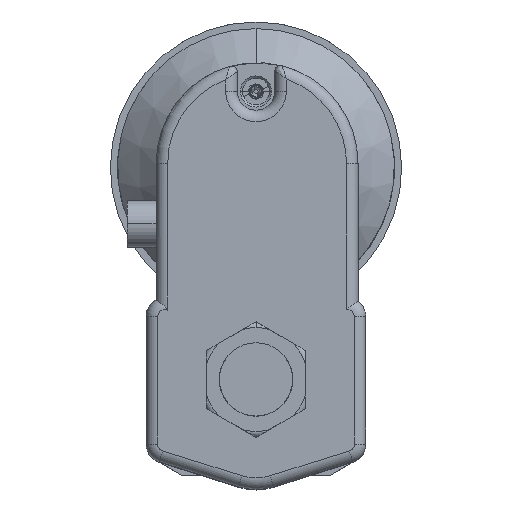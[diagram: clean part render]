
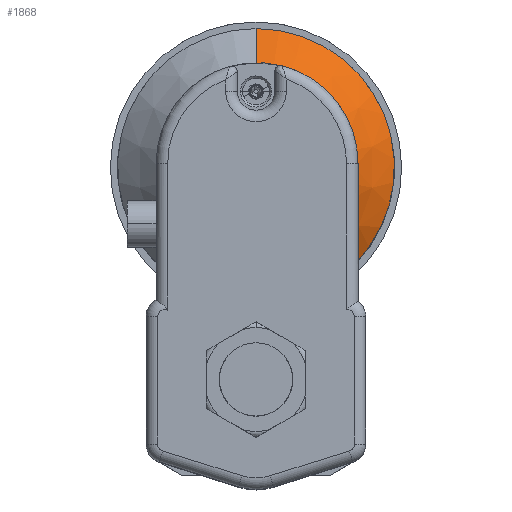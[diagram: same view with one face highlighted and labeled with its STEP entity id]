
A CAD part, top view. The second image highlights one B-rep face of the part: STEP entity #1868.
In plain terms, the highlighted conical face has half-angle 45 degrees and reference radius 48 mm.
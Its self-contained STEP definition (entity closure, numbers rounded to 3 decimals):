
#69 = ORIENTED_EDGE ( 'NONE', *, *, #3932, .T. ) ;
#71 = ORIENTED_EDGE ( 'NONE', *, *, #3931, .T. ) ;
#86 = ORIENTED_EDGE ( 'NONE', *, *, #3923, .F. ) ;
#87 = ORIENTED_EDGE ( 'NONE', *, *, #3927, .T. ) ;
#88 = ORIENTED_EDGE ( 'NONE', *, *, #3929, .F. ) ;
#137 = B_SPLINE_CURVE_WITH_KNOTS ( 'NONE', 3,
 ( #10502, #10507, #10508, #10509, #10510, #10511, #10512, #10513, #10514, #10515, #10516, #10517 ),
 .UNSPECIFIED., .F., .F.,
 ( 4, 2, 2, 2, 2, 4 ),
 ( 0.029, 0.037, 0.04, 0.044, 0.051, 0.059 ),
 .UNSPECIFIED. ) ;
#1868 = ADVANCED_FACE ( 'NONE', ( #7544 ), #7545, .T. ) ;
#3923 = EDGE_CURVE ( 'NONE', #9321, #9359, #8264, .T. ) ;
#3927 = EDGE_CURVE ( 'NONE', #9325, #9315, #8272, .T. ) ;
#3929 = EDGE_CURVE ( 'NONE', #9325, #9321, #8279, .T. ) ;
#3931 = EDGE_CURVE ( 'NONE', #9315, #9317, #137, .T. ) ;
#3932 = EDGE_CURVE ( 'NONE', #9317, #9359, #8282, .T. ) ;
#4477 = AXIS2_PLACEMENT_3D ( 'NONE', #8452, #8451, #8450 ) ;
#4876 = EDGE_LOOP ( 'NONE', ( #88, #87, #71, #69, #86 ) ) ;
#7544 = FACE_OUTER_BOUND ( 'NONE', #4876, .T. ) ;
#7545 = CONICAL_SURFACE ( 'NONE', #4477, 48., 0.785 ) ;
#8264 = LINE ( 'NONE', #10480, #8266 ) ;
#8266 = VECTOR ( 'NONE', #10488, 1000. ) ;
#8272 = LINE ( 'NONE', #10489, #8274 ) ;
#8274 = VECTOR ( 'NONE', #10497, 1000. ) ;
#8279 = CIRCLE ( 'NONE', #11532, 34. ) ;
#8282 = CIRCLE ( 'NONE', #11534, 48. ) ;
#8450 = DIRECTION ( 'NONE',  ( 0., 1., 0. ) ) ;
#8451 = DIRECTION ( 'NONE',  ( 0., 0., -1. ) ) ;
#8452 = CARTESIAN_POINT ( 'NONE',  ( 0., 73.9, 53.5 ) ) ;
#9315 = VERTEX_POINT ( 'NONE', #11057 ) ;
#9317 = VERTEX_POINT ( 'NONE', #11058 ) ;
#9321 = VERTEX_POINT ( 'NONE', #11060 ) ;
#9325 = VERTEX_POINT ( 'NONE', #11062 ) ;
#9359 = VERTEX_POINT ( 'NONE', #11081 ) ;
#10480 = CARTESIAN_POINT ( 'NONE',  ( 0., 121.9, 53.5 ) ) ;
#10488 = DIRECTION ( 'NONE',  ( 0., 0.707, -0.707 ) ) ;
#10489 = CARTESIAN_POINT ( 'NONE',  ( 0., 25.9, 53.5 ) ) ;
#10497 = DIRECTION ( 'NONE',  ( 0., -0.707, -0.707 ) ) ;
#10498 = CARTESIAN_POINT ( 'NONE',  ( 0., 73.9, 67.5 ) ) ;
#10500 = DIRECTION ( 'NONE',  ( 0., 0., 1. ) ) ;
#10501 = DIRECTION ( 'NONE',  ( 0., -1., 0. ) ) ;
#10502 = CARTESIAN_POINT ( 'NONE',  ( 0., 33.529, 61.129 ) ) ;
#10506 = CARTESIAN_POINT ( 'NONE',  ( 0., 73.9, 53.5 ) ) ;
#10507 = CARTESIAN_POINT ( 'NONE',  ( 2.446, 33.529, 61.129 ) ) ;
#10508 = CARTESIAN_POINT ( 'NONE',  ( 4.88, 33.569, 60.945 ) ) ;
#10509 = CARTESIAN_POINT ( 'NONE',  ( 8.513, 33.679, 60.406 ) ) ;
#10510 = CARTESIAN_POINT ( 'NONE',  ( 9.724, 33.725, 60.181 ) ) ;
#10511 = CARTESIAN_POINT ( 'NONE',  ( 12.111, 33.829, 59.655 ) ) ;
#10512 = CARTESIAN_POINT ( 'NONE',  ( 13.29, 33.888, 59.353 ) ) ;
#10513 = CARTESIAN_POINT ( 'NONE',  ( 16.788, 34.077, 58.341 ) ) ;
#10514 = CARTESIAN_POINT ( 'NONE',  ( 19.068, 34.223, 57.527 ) ) ;
#10515 = CARTESIAN_POINT ( 'NONE',  ( 23.545, 34.528, 55.671 ) ) ;
#10516 = CARTESIAN_POINT ( 'NONE',  ( 25.743, 34.688, 54.63 ) ) ;
#10517 = CARTESIAN_POINT ( 'NONE',  ( 27.908, 34.847, 53.5 ) ) ;
#10518 = DIRECTION ( 'NONE',  ( 0., 0., 1. ) ) ;
#10519 = DIRECTION ( 'NONE',  ( 0., -1., 0. ) ) ;
#11057 = CARTESIAN_POINT ( 'NONE',  ( 0., 33.529, 61.129 ) ) ;
#11058 = CARTESIAN_POINT ( 'NONE',  ( 27.908, 34.847, 53.5 ) ) ;
#11060 = CARTESIAN_POINT ( 'NONE',  ( 0., 107.9, 67.5 ) ) ;
#11062 = CARTESIAN_POINT ( 'NONE',  ( 0., 39.9, 67.5 ) ) ;
#11081 = CARTESIAN_POINT ( 'NONE',  ( 0., 121.9, 53.5 ) ) ;
#11532 = AXIS2_PLACEMENT_3D ( 'NONE', #10498, #10500, #10501 ) ;
#11534 = AXIS2_PLACEMENT_3D ( 'NONE', #10506, #10518, #10519 ) ;
